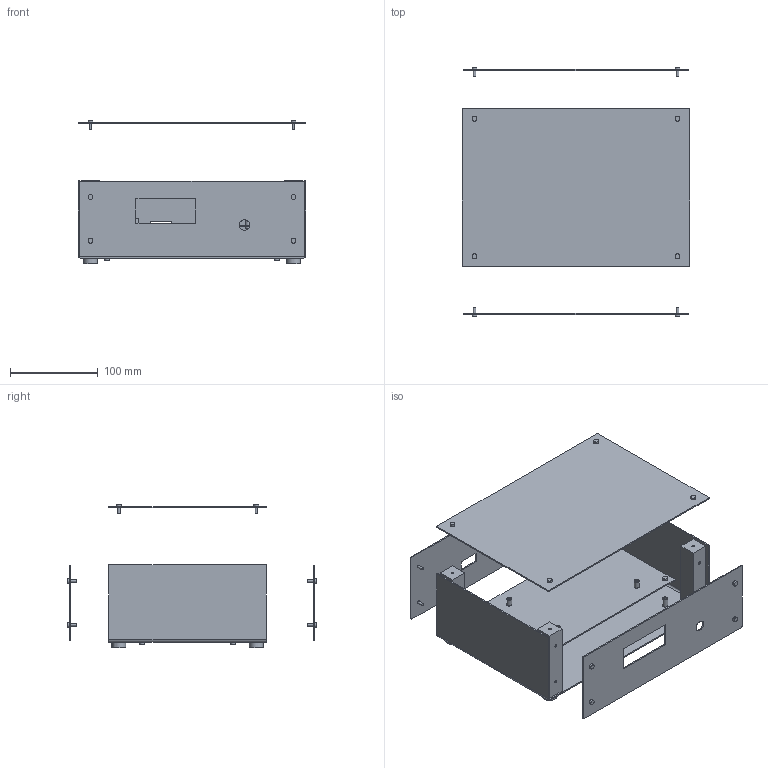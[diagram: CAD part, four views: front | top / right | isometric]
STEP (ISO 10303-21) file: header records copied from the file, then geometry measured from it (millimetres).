
FILE_DESCRIPTION(('Open CASCADE Model'),'2;1');
FILE_NAME('Open CASCADE Shape Model','2026-10-28T07:21:43',('Author'),( 'Open CASCADE'),'Open CASCADE STEP processor 7.8','Open CASCADE 7.8' ,'Unknown');
FILE_SCHEMA(('AUTOMOTIVE_DESIGN { 1 0 10303 214 1 1 1 1 }'));
Length unit declared in the file: millimetre
Products named in the file (50): instrument-enclosure-exploded-wide; u-shell; front-panel; rear-panel; lid; electronics-tray; corner-post-1; corner-post-2; corner-post-3; corner-post-4; tray-spacer-1; tray-spacer-2; tray-spacer-3; tray-spacer-4; pcb-spacer-1; pcb-spacer-2; pcb-spacer-3; pcb-spacer-4; lid-screw-1; base-screw-1; panel-screw-1-1; panel-screw-1-2; lid-screw-2; base-screw-2; panel-screw-2-1; panel-screw-2-2; lid-screw-3; base-screw-3; panel-screw-3-1; panel-screw-3-2; lid-screw-4; base-screw-4; panel-screw-4-1; panel-screw-4-2; tray-screw-1; tray-base-screw-1; tray-screw-2; tray-base-screw-2; tray-screw-3; tray-base-screw-3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
Assembly tree (49 placements, depth 2):
  instrument-enclosure-exploded-wide
    u-shell
    front-panel
    rear-panel
    lid
    electronics-tray
    corner-post-1
    corner-post-2
    corner-post-3
    corner-post-4
    tray-spacer-1
    tray-spacer-2
    tray-spacer-3
    tray-spacer-4
    pcb-spacer-1
    pcb-spacer-2
    pcb-spacer-3
    pcb-spacer-4
    lid-screw-1
    base-screw-1
    panel-screw-1-1
    panel-screw-1-2
    lid-screw-2
    base-screw-2
    panel-screw-2-1
    panel-screw-2-2
    lid-screw-3
    base-screw-3
    panel-screw-3-1
    panel-screw-3-2
    lid-screw-4
    base-screw-4
    panel-screw-4-1
    panel-screw-4-2
    tray-screw-1
    tray-base-screw-1
    tray-screw-2
    tray-base-screw-2
    tray-screw-3
    tray-base-screw-3
    tray-screw-4
    tray-base-screw-4
    pcb-spacer-screw-1
    pcb-spacer-screw-2
    pcb-spacer-screw-3
    pcb-spacer-screw-4
    foot-1
    foot-2
    foot-3
    foot-4
Bounding box: 260 x 285 x 163.5 mm (x, y, z)
Volume: 433959.5 mm3; surface area: 431813 mm2
Topology: 49 solids, 49 shells, 324 faces, 546 edges, 364 vertices
Faces by surface type: plane 190, cylinder 134
Full cylindrical faces by diameter (mm): 3 x52, 3.4 x28, 5.5 x28, 6 x12, 12 x1, 16 x5
Entity records: 16374 total; most frequent: CARTESIAN_POINT 2784, DIRECTION 2586, LINE 1102, VECTOR 1102, ORIENTED_EDGE 1092, PCURVE 1092, DEFINITIONAL_REPRESENTATION 1092, AXIS2_PLACEMENT_3D 642
